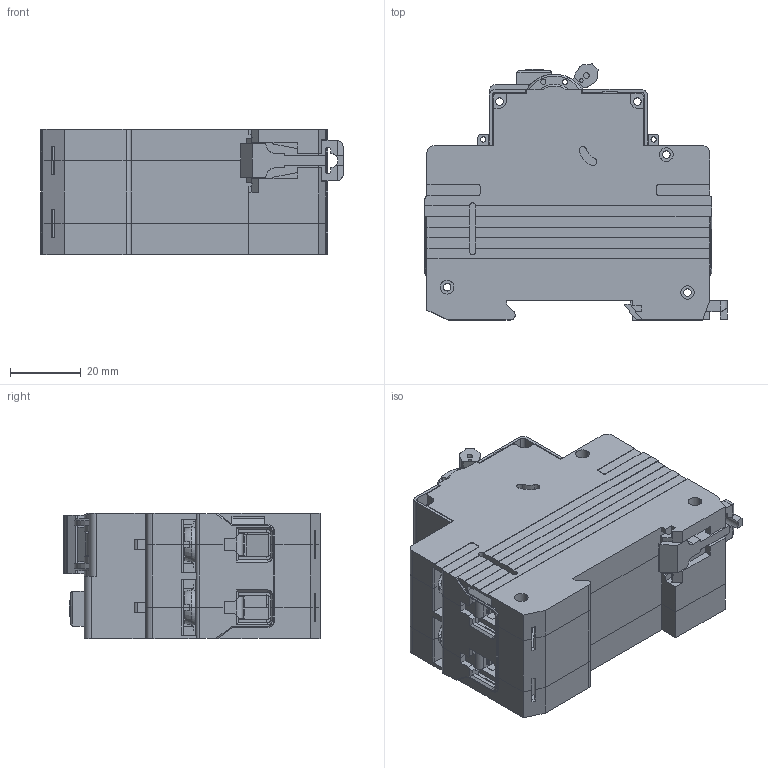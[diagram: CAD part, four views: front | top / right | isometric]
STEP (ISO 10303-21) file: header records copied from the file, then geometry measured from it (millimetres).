
FILE_DESCRIPTION (( 'STEP AP214' ), '1' );
FILE_NAME ('OptiDin D63.STEP', '2022-11-30T10:56:00', ( '' ), ( '' ), 'SwSTEP 2.0', 'SolidWorks 2018', '' );
FILE_SCHEMA (( 'AUTOMOTIVE_DESIGN' ));
Length unit declared in the file: millimetre
Products named in the file (10): Êîðïóñ Ä63-2(23.07.2020) ïóñòîé_‘¥à¥¤¨­  ®¤­®áâ®à®­­¨å ¤®¯ãáª®¢; Ðó÷êà ÃÆÈÊ.753725.009; Áîêîâèíà ëåâàÿ 23.07.2020 (ïóñòàÿ)_‘¥à¥¤¨­  ®¤­®áâ®à®­­¨å ¤®¯ãáª®¢; Áîêîâèíà ïðàâàÿ 23.07.2020 (ïóñòàÿ); Çàù¸ëêà ÃÆÈÊ.741358.031_¤«ï á¡®àª¨; Êîëîäêà ÃÆÈÊ.745418.015; OptiDin D63; 妈眚 闷仁.758151.057; 薯铒赅 闷仁.753313.008; ﾂ鏆鮏 ﾃﾆﾈﾊ.745315.008.step
Assembly tree (18 placements, depth 2):
  OptiDin D63
    Êîðïóñ Ä63-2(23.07.2020) ïóñòîé_‘¥à¥¤¨­  ®¤­®áâ®à®­­¨å ¤®¯ãáª®¢
    Áîêîâèíà ëåâàÿ 23.07.2020 (ïóñòàÿ)_‘¥à¥¤¨­  ®¤­®áâ®à®­­¨å ¤®¯ãáª®¢
    薯铒赅 闷仁.753313.008
    妈眚 闷仁.758151.057  x4
    Êîëîäêà ÃÆÈÊ.745418.015  x4
    Áîêîâèíà ïðàâàÿ 23.07.2020 (ïóñòàÿ)
    Çàù¸ëêà ÃÆÈÊ.741358.031_¤«ï á¡®àª¨
    Ðó÷êà ÃÆÈÊ.753725.009
    ﾂ鏆鮏 ﾃﾆﾈﾊ.745315.008.step  x4
Bounding box: 85.5 x 72.45 x 35.6 mm (x, y, z)
Volume: 47015.4 mm3; surface area: 69550.1 mm2
Topology: 18 solids, 18 shells, 2725 faces, 7489 edges, 4831 vertices
Faces by surface type: plane 2022, cylinder 638, cone 39, torus 18, bspline 8
Entity records: 62773 total; most frequent: CARTESIAN_POINT 11394, ORIENTED_EDGE 10910, DIRECTION 10262, EDGE_CURVE 5455, VECTOR 4408, LINE 4408, VERTEX_POINT 3553, AXIS2_PLACEMENT_3D 2927
